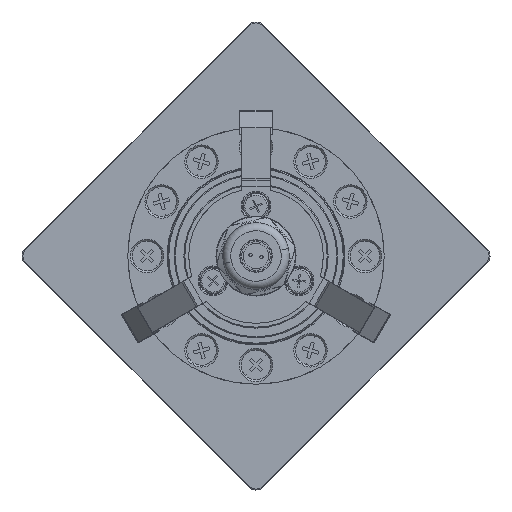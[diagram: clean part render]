
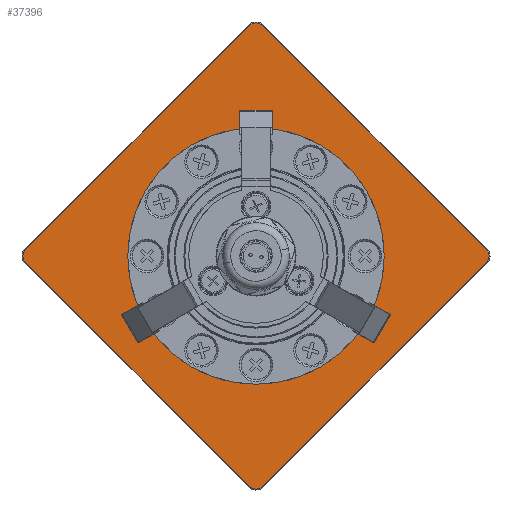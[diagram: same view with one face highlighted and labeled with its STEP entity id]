
A CAD part, left-side view. The second image highlights one B-rep face of the part: STEP entity #37396.
In plain terms, the highlighted planar face has unit normal (-1, 0, 0) as drawn and (0, 1, 0) by its records, which use the part's own axes.
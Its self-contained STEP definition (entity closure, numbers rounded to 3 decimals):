
#357 = VERTEX_POINT ( 'NONE', #20697 ) ;
#783 = CIRCLE ( 'NONE', #39958, 40. ) ;
#1957 = DIRECTION ( 'NONE',  ( 0., 0., -1. ) ) ;
#2397 = ORIENTED_EDGE ( 'NONE', *, *, #12444, .F. ) ;
#3165 = DIRECTION ( 'NONE',  ( 0., 0., -1. ) ) ;
#3459 = CARTESIAN_POINT ( 'NONE',  ( 49.5, 3.3, -52.2 ) ) ;
#4043 = EDGE_CURVE ( 'NONE', #38237, #39809, #783, .T. ) ;
#4099 = CARTESIAN_POINT ( 'NONE',  ( 52.2, 3.3, 51.082 ) ) ;
#4567 =( BOUNDED_CURVE ( )  B_SPLINE_CURVE ( 3, ( #24813, #57938, #30769, #30281 ),
 .UNSPECIFIED., .F., .F. ) 
 B_SPLINE_CURVE_WITH_KNOTS ( ( 4, 4 ),
 ( 0., 1. ),
 .UNSPECIFIED. ) 
 CURVE ( )  GEOMETRIC_REPRESENTATION_ITEM ( )  RATIONAL_B_SPLINE_CURVE ( ( 1., 0.805, 0.805, 1. ) ) 
 REPRESENTATION_ITEM ( '' )  );
#5055 = CARTESIAN_POINT ( 'NONE',  ( -52.2, 3.3, -49.5 ) ) ;
#5175 = CARTESIAN_POINT ( 'NONE',  ( -49.5, 3.3, 52.2 ) ) ;
#5396 = DIRECTION ( 'NONE',  ( 0., 0., 1. ) ) ;
#5860 = VERTEX_POINT ( 'NONE', #32806 ) ;
#6289 = EDGE_LOOP ( 'NONE', ( #43308, #14400 ) ) ;
#7132 = CARTESIAN_POINT ( 'NONE',  ( 49.5, 3.3, -52.2 ) ) ;
#7232 = DIRECTION ( 'NONE',  ( 0., -1., 0. ) ) ;
#7376 = ORIENTED_EDGE ( 'NONE', *, *, #52265, .F. ) ;
#8425 = CARTESIAN_POINT ( 'NONE',  ( -52.2, 3.3, -52.5 ) ) ;
#10183 = DIRECTION ( 'NONE',  ( 0., 0., 1. ) ) ;
#10200 = VERTEX_POINT ( 'NONE', #59145 ) ;
#10487 = CARTESIAN_POINT ( 'NONE',  ( -52.2, 3.3, 49.5 ) ) ;
#11261 = CARTESIAN_POINT ( 'NONE',  ( 51.082, 3.3, 52.2 ) ) ;
#12444 = EDGE_CURVE ( 'NONE', #66006, #62800, #59225, .T. ) ;
#12463 = EDGE_CURVE ( 'NONE', #10200, #46729, #27765, .T. ) ;
#13710 = CARTESIAN_POINT ( 'NONE',  ( 0., 3.3, 0. ) ) ;
#14395 = EDGE_CURVE ( 'NONE', #62800, #29354, #54120, .T. ) ;
#14400 = ORIENTED_EDGE ( 'NONE', *, *, #4043, .T. ) ;
#17529 = EDGE_CURVE ( 'NONE', #29354, #10200, #4567, .T. ) ;
#18425 = ORIENTED_EDGE ( 'NONE', *, *, #14395, .F. ) ;
#20101 = CARTESIAN_POINT ( 'NONE',  ( 52.2, 3.3, 49.5 ) ) ;
#20417 = DIRECTION ( 'NONE',  ( 0., 1., 0. ) ) ;
#20697 = CARTESIAN_POINT ( 'NONE',  ( 52.2, 3.3, 49.5 ) ) ;
#21424 = DIRECTION ( 'NONE',  ( 1., 0., 0. ) ) ;
#21728 = ORIENTED_EDGE ( 'NONE', *, *, #62096, .F. ) ;
#22086 = EDGE_CURVE ( 'NONE', #5860, #66006, #37983, .T. ) ;
#22534 = CIRCLE ( 'NONE', #57979, 40. ) ;
#23486 = AXIS2_PLACEMENT_3D ( 'NONE', #62819, #20417, #10183 ) ;
#24175 = DIRECTION ( 'NONE',  ( 0., -1., 0. ) ) ;
#24286 = ORIENTED_EDGE ( 'NONE', *, *, #12463, .F. ) ;
#24813 = CARTESIAN_POINT ( 'NONE',  ( -52.2, 3.3, -49.5 ) ) ;
#24872 = ORIENTED_EDGE ( 'NONE', *, *, #51522, .F. ) ;
#26305 = VECTOR ( 'NONE', #5396, 1000. ) ;
#27765 = LINE ( 'NONE', #48337, #37169 ) ;
#27954 = ORIENTED_EDGE ( 'NONE', *, *, #17529, .F. ) ;
#29354 = VERTEX_POINT ( 'NONE', #5055 ) ;
#29509 = CARTESIAN_POINT ( 'NONE',  ( 52.2, 3.3, -49.5 ) ) ;
#30013 =( BOUNDED_CURVE ( )  B_SPLINE_CURVE ( 3, ( #20101, #4099, #11261, #49366 ),
 .UNSPECIFIED., .F., .F. ) 
 B_SPLINE_CURVE_WITH_KNOTS ( ( 4, 4 ),
 ( 0., 1. ),
 .UNSPECIFIED. ) 
 CURVE ( )  GEOMETRIC_REPRESENTATION_ITEM ( )  RATIONAL_B_SPLINE_CURVE ( ( 1., 0.805, 0.805, 1. ) ) 
 REPRESENTATION_ITEM ( '' )  );
#30281 = CARTESIAN_POINT ( 'NONE',  ( -49.5, 3.3, -52.2 ) ) ;
#30769 = CARTESIAN_POINT ( 'NONE',  ( -51.082, 3.3, -52.2 ) ) ;
#31419 = CARTESIAN_POINT ( 'NONE',  ( 52.2, 3.3, -49.5 ) ) ;
#31803 = CARTESIAN_POINT ( 'NONE',  ( -52.2, 3.3, 49.5 ) ) ;
#32806 = CARTESIAN_POINT ( 'NONE',  ( 49.5, 3.3, 52.2 ) ) ;
#33493 = ORIENTED_EDGE ( 'NONE', *, *, #22086, .F. ) ;
#37169 = VECTOR ( 'NONE', #21424, 1000. ) ;
#37396 = ADVANCED_FACE ( 'NONE', ( #43500, #59655 ), #63276, .T. ) ;
#37983 = LINE ( 'NONE', #53459, #67728 ) ;
#38237 = VERTEX_POINT ( 'NONE', #61699 ) ;
#39809 = VERTEX_POINT ( 'NONE', #40477 ) ;
#39958 = AXIS2_PLACEMENT_3D ( 'NONE', #13710, #24175, #3165 ) ;
#40477 = CARTESIAN_POINT ( 'NONE',  ( 0., 3.3, -40. ) ) ;
#41042 = EDGE_LOOP ( 'NONE', ( #24286, #27954, #18425, #2397, #33493, #7376, #24872, #21728 ) ) ;
#42843 = CARTESIAN_POINT ( 'NONE',  ( 52.2, 3.3, -52.5 ) ) ;
#43308 = ORIENTED_EDGE ( 'NONE', *, *, #55351, .T. ) ;
#43500 = FACE_BOUND ( 'NONE', #6289, .T. ) ;
#45115 = CARTESIAN_POINT ( 'NONE',  ( 0., 3.3, 0. ) ) ;
#45248 = CARTESIAN_POINT ( 'NONE',  ( 52.2, 3.3, -51.082 ) ) ;
#45969 = CARTESIAN_POINT ( 'NONE',  ( 51.082, 3.3, -52.2 ) ) ;
#46729 = VERTEX_POINT ( 'NONE', #3459 ) ;
#47936 =( BOUNDED_CURVE ( )  B_SPLINE_CURVE ( 3, ( #7132, #45969, #45248, #29509 ),
 .UNSPECIFIED., .F., .F. ) 
 B_SPLINE_CURVE_WITH_KNOTS ( ( 4, 4 ),
 ( 0., 1. ),
 .UNSPECIFIED. ) 
 CURVE ( )  GEOMETRIC_REPRESENTATION_ITEM ( )  RATIONAL_B_SPLINE_CURVE ( ( 1., 0.805, 0.805, 1. ) ) 
 REPRESENTATION_ITEM ( '' )  );
#48108 = CARTESIAN_POINT ( 'NONE',  ( -51.082, 3.3, 52.2 ) ) ;
#48216 = DIRECTION ( 'NONE',  ( -1., 0., 0. ) ) ;
#48337 = CARTESIAN_POINT ( 'NONE',  ( -52.5, 3.3, -52.2 ) ) ;
#49366 = CARTESIAN_POINT ( 'NONE',  ( 49.5, 3.3, 52.2 ) ) ;
#51522 = EDGE_CURVE ( 'NONE', #53328, #357, #66302, .T. ) ;
#52265 = EDGE_CURVE ( 'NONE', #357, #5860, #30013, .T. ) ;
#53328 = VERTEX_POINT ( 'NONE', #31419 ) ;
#53459 = CARTESIAN_POINT ( 'NONE',  ( -52.5, 3.3, 52.2 ) ) ;
#54120 = LINE ( 'NONE', #8425, #63466 ) ;
#55351 = EDGE_CURVE ( 'NONE', #39809, #38237, #22534, .T. ) ;
#56506 = DIRECTION ( 'NONE',  ( 0., 0., -1. ) ) ;
#57938 = CARTESIAN_POINT ( 'NONE',  ( -52.2, 3.3, -51.082 ) ) ;
#57979 = AXIS2_PLACEMENT_3D ( 'NONE', #45115, #7232, #1957 ) ;
#59076 = CARTESIAN_POINT ( 'NONE',  ( -52.2, 3.3, 51.082 ) ) ;
#59145 = CARTESIAN_POINT ( 'NONE',  ( -49.5, 3.3, -52.2 ) ) ;
#59225 =( BOUNDED_CURVE ( )  B_SPLINE_CURVE ( 3, ( #5175, #48108, #59076, #10487 ),
 .UNSPECIFIED., .F., .F. ) 
 B_SPLINE_CURVE_WITH_KNOTS ( ( 4, 4 ),
 ( 0., 1. ),
 .UNSPECIFIED. ) 
 CURVE ( )  GEOMETRIC_REPRESENTATION_ITEM ( )  RATIONAL_B_SPLINE_CURVE ( ( 1., 0.805, 0.805, 1. ) ) 
 REPRESENTATION_ITEM ( '' )  );
#59655 = FACE_OUTER_BOUND ( 'NONE', #41042, .T. ) ;
#60417 = CARTESIAN_POINT ( 'NONE',  ( -49.5, 3.3, 52.2 ) ) ;
#61699 = CARTESIAN_POINT ( 'NONE',  ( 0., 3.3, 40. ) ) ;
#62096 = EDGE_CURVE ( 'NONE', #46729, #53328, #47936, .T. ) ;
#62800 = VERTEX_POINT ( 'NONE', #31803 ) ;
#62819 = CARTESIAN_POINT ( 'NONE',  ( 40., 3.3, 0. ) ) ;
#63276 = PLANE ( 'NONE',  #23486 ) ;
#63466 = VECTOR ( 'NONE', #56506, 1000. ) ;
#66006 = VERTEX_POINT ( 'NONE', #60417 ) ;
#66302 = LINE ( 'NONE', #42843, #26305 ) ;
#67728 = VECTOR ( 'NONE', #48216, 1000. ) ;
